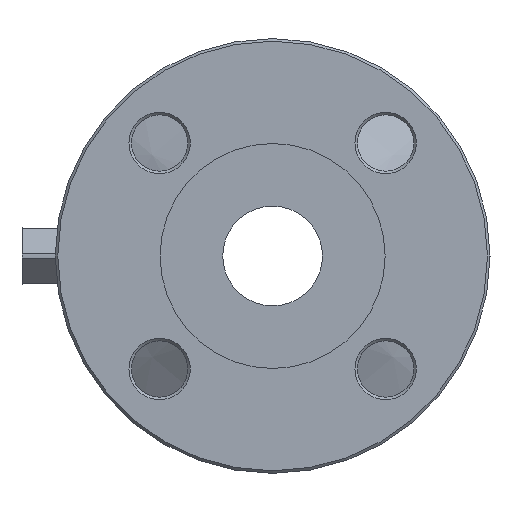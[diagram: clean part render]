
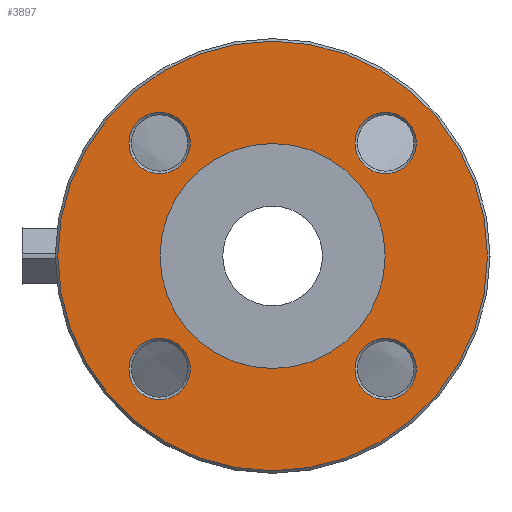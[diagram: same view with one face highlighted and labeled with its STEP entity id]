
A CAD part, left-side view. The second image highlights one B-rep face of the part: STEP entity #3897.
In plain terms, the highlighted planar face has unit normal (-1, 0, 0).
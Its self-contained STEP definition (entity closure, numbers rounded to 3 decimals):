
#3802=CARTESIAN_POINT('',(-102.0,-56.194,-44.194));
#3803=VERTEX_POINT('',#3802);
#3804=CARTESIAN_POINT('',(-102.0,-44.194,-44.194));
#3805=DIRECTION('',(-1.0,0.0,0.0));
#3806=DIRECTION('',(0.0,1.0,0.0));
#3807=AXIS2_PLACEMENT_3D('',#3804,#3805,#3806);
#3808=CIRCLE('',#3807,12.);
#3809=EDGE_CURVE('',#3803,#3803,#3808,.T.);
#3834=CARTESIAN_POINT('',(-102.0,-64.,0.0));
#3835=DIRECTION('',(-1.0,0.0,0.0));
#3836=DIRECTION('',(0.0,0.0,1.0));
#3837=AXIS2_PLACEMENT_3D('',#3834,#3835,#3836);
#3838=PLANE('',#3837);
#3839=CARTESIAN_POINT('',(-102.,-84.,0.0));
#3840=VERTEX_POINT('',#3839);
#3841=CARTESIAN_POINT('',(-102.,0.0,0.0));
#3842=DIRECTION('',(1.0,0.0,0.0));
#3843=DIRECTION('',(0.0,-1.0,0.0));
#3844=AXIS2_PLACEMENT_3D('',#3841,#3842,#3843);
#3845=CIRCLE('',#3844,84.);
#3846=EDGE_CURVE('',#3840,#3840,#3845,.T.);
#3847=ORIENTED_EDGE('',*,*,#3846,.F.);
#3848=EDGE_LOOP('',(#3847));
#3849=FACE_OUTER_BOUND('',#3848,.T.);
#3850=CARTESIAN_POINT('',(-102.0,-44.194,56.194));
#3851=VERTEX_POINT('',#3850);
#3852=CARTESIAN_POINT('',(-102.0,-44.194,44.194));
#3853=DIRECTION('',(-1.0,0.0,0.0));
#3854=DIRECTION('',(0.0,0.0,-1.0));
#3855=AXIS2_PLACEMENT_3D('',#3852,#3853,#3854);
#3856=CIRCLE('',#3855,12.);
#3857=EDGE_CURVE('',#3851,#3851,#3856,.T.);
#3858=ORIENTED_EDGE('',*,*,#3857,.F.);
#3859=EDGE_LOOP('',(#3858));
#3860=FACE_BOUND('',#3859,.T.);
#3861=CARTESIAN_POINT('',(-102.0,44.194,-56.194));
#3862=VERTEX_POINT('',#3861);
#3863=CARTESIAN_POINT('',(-102.0,44.194,-44.194));
#3864=DIRECTION('',(-1.0,0.0,0.0));
#3865=DIRECTION('',(0.0,0.0,1.0));
#3866=AXIS2_PLACEMENT_3D('',#3863,#3864,#3865);
#3867=CIRCLE('',#3866,12.);
#3868=EDGE_CURVE('',#3862,#3862,#3867,.T.);
#3869=ORIENTED_EDGE('',*,*,#3868,.F.);
#3870=EDGE_LOOP('',(#3869));
#3871=FACE_BOUND('',#3870,.T.);
#3872=CARTESIAN_POINT('',(-102.,-44.0,0.0));
#3873=VERTEX_POINT('',#3872);
#3874=CARTESIAN_POINT('',(-102.0,0.0,0.0));
#3875=DIRECTION('',(1.0,0.0,0.0));
#3876=DIRECTION('',(0.0,-1.0,0.0));
#3877=AXIS2_PLACEMENT_3D('',#3874,#3875,#3876);
#3878=CIRCLE('',#3877,44.0);
#3879=EDGE_CURVE('',#3873,#3873,#3878,.T.);
#3880=ORIENTED_EDGE('',*,*,#3879,.T.);
#3881=EDGE_LOOP('',(#3880));
#3882=FACE_BOUND('',#3881,.T.);
#3883=CARTESIAN_POINT('',(-102.0,56.194,44.194));
#3884=VERTEX_POINT('',#3883);
#3885=CARTESIAN_POINT('',(-102.0,44.194,44.194));
#3886=DIRECTION('',(-1.0,0.0,0.0));
#3887=DIRECTION('',(0.0,-1.0,0.0));
#3888=AXIS2_PLACEMENT_3D('',#3885,#3886,#3887);
#3889=CIRCLE('',#3888,12.);
#3890=EDGE_CURVE('',#3884,#3884,#3889,.T.);
#3891=ORIENTED_EDGE('',*,*,#3890,.F.);
#3892=EDGE_LOOP('',(#3891));
#3893=FACE_BOUND('',#3892,.T.);
#3894=ORIENTED_EDGE('',*,*,#3809,.F.);
#3895=EDGE_LOOP('',(#3894));
#3896=FACE_BOUND('',#3895,.T.);
#3897=ADVANCED_FACE('',(#3849,#3860,#3871,#3882,#3893,#3896),#3838,.T.);
